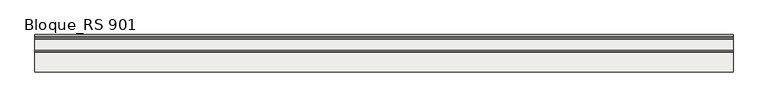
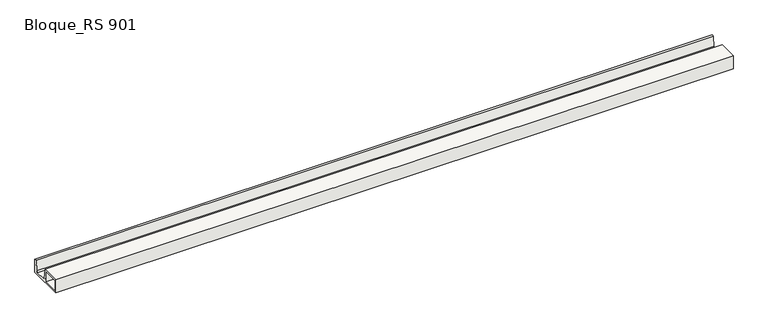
"""IFC4 building model written with IfcOpenShell, lengths in millimetres: slab geometry, ROSA GRES_RS 901 : Bloque_RS 901."""

from ifc_helpers import new_model, si_unit, point, frame, frame_2d, origin, place, context, project, spatial, polyline, circle_curve, trimmed, segment, composite_curve, outline, extrude, source, transform, mapped, element, save


def bloque_rs_901_2c9cb21e(model_context):
    return source(origin(), model_context, "Body", "SweptSolid", [
        extrude(outline(composite_curve([segment(polyline([(12.836227, 188.7539108), (268.704852, 188.7539108), (282.2408556, 49.1487962)]), True, "CONTINUOUS"), segment(trimmed(circle_curve(frame_2d((301.8831862, 51.599206)), 19.7945866), [point((282.2408556, 49.1487962))], [point((302.2746005, 31.8084896))], True, "CARTESIAN"), True, "CONTINUOUS"), segment(polyline([(302.2746005, 31.8084896), (448.3978535, 31.8084896)]), True, "CONTINUOUS"), segment(trimmed(circle_curve(frame_2d((448.7892677, 51.599206)), 19.7945866), [point((448.3978535, 31.8084896))], [point((468.4315983, 49.1487962))], True, "CARTESIAN"), True, "CONTINUOUS"), segment(polyline([(468.4315983, 49.1487962), (481.967602, 188.7539108), (508.836227, 188.7539108), (508.836227, 1.7539108), (12.836227, 1.7539108), (12.836227, 188.7539108)]), True, "CONTINUOUS")], self_intersect=False), holes=[polyline([(241.836227, 158.7539108), (37.836227, 158.7539108), (37.836227, 26.7539108), (241.836227, 26.7539108), (241.836227, 158.7539108)])]), frame((0.0, 0.0, 0.0), z_axis=(1.0, 0.0, 0.0), x_axis=(0.0, 1.0, 0.0)), (0.0, 0.0, 1.0), 9275.0711954),
    ])


if __name__ == "__main__":
    model = new_model("IFC4")
    model_context = context("Model", 3, world=origin())
    ifc_project = project(units=[si_unit("LENGTHUNIT", "METRE", prefix="MILLI")], contexts=[model_context])
    site = spatial("IfcSite", under=ifc_project)
    building = spatial("IfcBuilding", under=site)
    placement = place(None, origin())
    bloque_rs_901_shape = bloque_rs_901_2c9cb21e(model_context)
    element("IfcSlab", 1, ObjectType="ROSA GRES_RS 901 : Bloque_RS 901", at=placement, inside=building, context=model_context, shape_type="MappedRepresentation", body=[
        mapped(bloque_rs_901_shape, transform((0.0, 0.0, 0.0), x_axis=(1.0, 0.0, 0.0), y_axis=(0.0, 1.0, 0.0), z_axis=(0.0, 0.0, 1.0))),
    ])
    save(model, "model.ifc")
